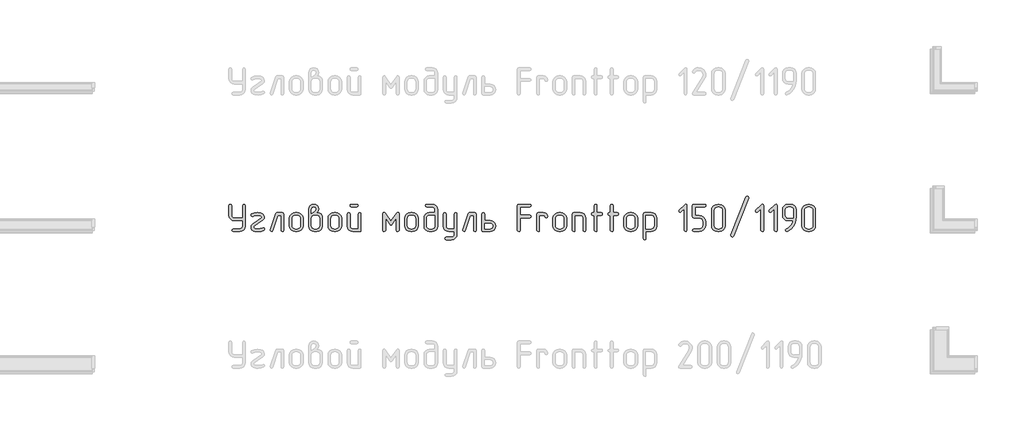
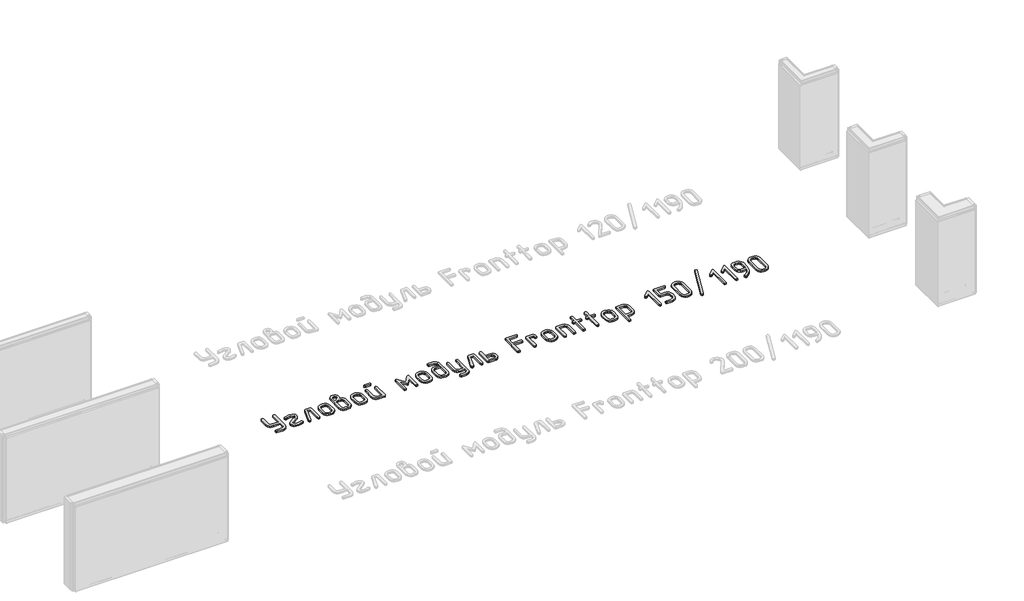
# One storey, part 28 of 37: 1 proxy.
"""IFC4 building model written with IfcOpenShell, lengths in millimetres."""

from ifc_helpers import new_model, si_unit, origin, origin_with_axes, place, context, project, spatial, polyline, outline, extrude, element, save

model = new_model("IFC4")

# Units and contexts
model_context = context("Model", 3, world=origin())
ifc_project = project(units=[si_unit("LENGTHUNIT", "METRE", prefix="MILLI")], contexts=[model_context])

# Site, building, storey
site = spatial("IfcSite", under=ifc_project)
building = spatial("IfcBuilding", under=site)
storey = spatial("IfcBuildingStorey", under=building, Name="Этаж 01", Elevation=0.0)

# Proxy
placement = place(None, origin())
element("IfcBuildingElementProxy", 1, Name="300 мм ГОСТ 2.304", ObjectType="300 мм ГОСТ 2.304", at=placement, inside=storey, context=model_context, shape_type="SweptSolid", body=[
    extrude(outline(polyline([(64282.5947081, -28108.7261154), (64192.9398643, -28108.7261154), (64169.869135, -28104.3522505), (64150.5152523, -28091.2306559), (64137.3936577, -28071.8767732), (64133.0197928, -28048.8060439), (64133.0197928, -27944.2838139), (64137.4124296, -27933.1332743), (64148.3377058, -27928.9659009), (64158.6247356, -27932.9080109), (64163.205092, -27944.2838139), (64163.205092, -28048.8060439), (64165.3357086, -28060.4540402), (64171.7275583, -28070.0183499), (64181.2918679, -28076.4101996), (64192.9398643, -28078.5408162), (64282.5947081, -28078.5408162), (64282.5947081, -27944.2838139), (64286.949801, -27933.1332743), (64297.4620942, -27928.9659009), (64307.9368436, -27932.9080109), (64312.3294804, -27944.2838139), (64312.3294804, -28168.19566), (64307.9556155, -28191.6042844), (64294.8340209, -28211.0707988), (64275.8180333, -28223.8544983), (64252.8599358, -28228.1157314), (64178.0724781, -28228.1157314), (64167.147202, -28223.7606385), (64163.205092, -28213.2483453), (64166.9219385, -28202.736052), (64178.0724781, -28198.3809591), (64252.8599358, -28198.3809591), (64264.2263528, -28196.1940267), (64273.8469783, -28189.6332294), (64280.4077756, -28179.8999722), (64282.5947081, -28168.19566), (64282.5947081, -28108.7261154)])), origin_with_axes(), (0.0, 0.0, 1.0), 20.0),
    extrude(outline(polyline([(64514.9914765, -28214.524838), (64485.4444237, -28225.0746752), (64451.6173658, -28228.5662583), (64430.8180428, -28227.4774851), (64413.0973199, -28224.5866044), (64396.8408093, -28219.4524755), (64384.8643037, -28209.3062353), (64377.4869265, -28195.6496401), (64375.0278008, -28179.984446), (64378.9699108, -28160.7619669), (64391.2467675, -28144.618088), (64486.5331969, -28078.991343), (64491.4139045, -28069.8306304), (64487.5844263, -28060.4071103), (64476.0959915, -28054.0621905), (64442.3815653, -28049.7070976), (64416.2510079, -28052.4290307), (64397.32888, -28060.5948299), (64388.1681673, -28064.1239569), (64377.693418, -28059.5436005), (64373.3007812, -28048.355517), (64379.4579815, -28037.0172579), (64408.0664367, -28024.777945), (64445.0096386, -28020.4228521), (64450.2657853, -28020.4228521), (64479.1370478, -28023.9144352), (64501.85111, -28033.7509382), (64516.7184961, -28049.0313073), (64521.9746427, -28068.9295767), (64517.7134096, -28086.6315276), (64504.9297101, -28102.193476), (64409.5681929, -28168.19566), (64404.3871341, -28179.6090069), (64408.1039806, -28189.8584928), (64417.9029396, -28195.7528858), (64434.3096259, -28197.5174493), (64451.9928049, -28198.3809591), (64478.4612575, -28196.2034127), (64501.0251441, -28187.8686659), (64508.4588371, -28186.1416463), (64519.1588499, -28190.7220026), (64523.3262233, -28201.9100861), (64521.2425366, -28209.1936036), (64514.9914765, -28214.524838)])), origin_with_axes(), (0.0, 0.0, 1.0), 20.0),
    extrude(outline(polyline([(64734.3229662, -28213.2483453), (64730.1555928, -28224.3988849), (64719.45558, -28228.1157314), (64708.9432868, -28224.1736215), (64704.5881939, -28213.2483453), (64704.5881939, -28048.8060439), (64670.0478018, -28048.8060439), (64614.0322964, -28218.0539651), (64608.5884303, -28225.4876581), (64600.5164908, -28228.1157314), (64589.7789341, -28224.1736215), (64585.1985778, -28213.6988721), (64586.0996315, -28208.4427255), (64645.1186493, -28029.133038), (64650.4498837, -28021.5867132), (64659.5355086, -28019.0712716), (64719.45558, -28019.0712716), (64730.6061197, -28022.7881181), (64734.3229662, -28033.9386577), (64734.3229662, -28213.2483453)])), origin_with_axes(), (0.0, 0.0, 1.0), 20.0),
    extrude(outline(polyline([(64945.7702359, -28162.4889865), (64940.9646162, -28187.9812976), (64926.5477569, -28209.3437792), (64905.5231704, -28223.4227434), (64880.143491, -28228.1157314), (64862.1975047, -28228.1157314), (64836.7615094, -28223.4227434), (64815.4177998, -28209.3437792), (64801.0009405, -28187.9812976), (64796.1953207, -28162.4889865), (64796.1953207, -28084.6980165), (64801.0009405, -28059.5436005), (64815.4177998, -28038.2937506), (64837.1744924, -28023.8768913), (64862.1975047, -28019.0712716), (64880.143491, -28019.0712716), (64905.288521, -28023.8862773), (64926.510213, -28038.3312945), (64940.9552302, -28059.5529865), (64945.7702359, -28084.6980165), (64945.7702359, -28162.4889865)]), holes=[polyline([(64916.0354636, -28162.4889865), (64916.0354636, -28084.6980165), (64913.4073903, -28070.9194036), (64905.5231704, -28059.3183371), (64893.9221039, -28051.4341172), (64880.143491, -28048.8060439), (64862.1975047, -28048.8060439), (64848.4282777, -28051.4341172), (64836.8553692, -28059.3183371), (64828.9993072, -28070.9194036), (64826.3806199, -28084.6980165), (64826.3806199, -28162.4889865), (64828.9993072, -28176.2675994), (64836.8553692, -28187.8686659), (64848.4282777, -28195.7528858), (64862.1975047, -28198.3809591), (64880.143491, -28198.3809591), (64893.9221039, -28195.7528858), (64905.5231704, -28187.8686659), (64913.4073903, -28176.2675994), (64916.0354636, -28162.4889865)])]), origin_with_axes(), (0.0, 0.0, 1.0), 20.0),
    extrude(outline(polyline([(65097.2974342, -28019.9723253), (65122.7897453, -28024.2335584), (65142.3501195, -28037.0172579), (65153.5006592, -28055.057104), (65157.2175057, -28078.5408162), (65157.2175057, -28168.19566), (65152.8436408, -28191.6042844), (65139.7220462, -28211.0707988), (65120.5934269, -28223.8544983), (65097.2974342, -28228.1157314), (65067.5626619, -28228.1157314), (65044.4919326, -28223.8544983), (65025.1380499, -28211.0707988), (65012.0164553, -28191.6042844), (65007.6425905, -28168.19566), (65007.6425905, -27983.2543867), (65011.9038236, -27960.3901489), (65024.6875231, -27942.5567943), (65041.4133325, -27932.3636243), (65061.8559884, -27928.9659009), (65081.9607493, -27932.3636243), (65098.573927, -27942.5567943), (65111.0760472, -27960.2775172), (65115.2434206, -27982.8038599), (65111.0760472, -28004.8421318), (65097.2974342, -28019.9723253)]), holes=[polyline([(65127.4827334, -28168.19566), (65127.4827334, -28078.5408162), (65125.295801, -28067.1743991), (65118.7350037, -28057.5537736), (65109.0017464, -28050.9929763), (65097.2974342, -28048.8060439), (65067.5626619, -28048.8060439), (65055.9146656, -28050.9929763), (65046.3503559, -28057.5537736), (65039.9585062, -28067.1743991), (65037.8278896, -28078.5408162), (65037.8278896, -28168.19566), (65039.9585062, -28179.8999722), (65046.3503559, -28189.6332294), (65055.9146656, -28196.1940267), (65067.5626619, -28198.3809591), (65097.2974342, -28198.3809591), (65109.0017464, -28196.1940267), (65118.7350037, -28189.6332294), (65125.295801, -28179.8999722), (65127.4827334, -28168.19566)]), polyline([(65037.8278896, -28029.133038), (65044.8110558, -28025.0032085), (65050.0672025, -28021.248818), (65060.1289688, -28014.0403884), (65067.5626619, -28008.5589783), (65079.8019748, -27997.671246), (65085.5086482, -27983.2543867), (65083.7065408, -27973.1644624), (65078.3002186, -27965.7213834), (65070.4723145, -27961.1316411), (65061.4054616, -27959.601727), (65052.4512404, -27961.1316411), (65044.8110558, -27965.7213834), (65039.5736812, -27973.1644624), (65037.8278896, -27983.2543867), (65037.8278896, -28029.133038)])]), origin_with_axes(), (0.0, 0.0, 1.0), 20.0),
    extrude(outline(polyline([(65368.6647755, -28162.4889865), (65363.8591557, -28187.9812976), (65349.4422964, -28209.3437792), (65328.4177099, -28223.4227434), (65303.0380305, -28228.1157314), (65285.0920442, -28228.1157314), (65259.6560489, -28223.4227434), (65238.3123393, -28209.3437792), (65223.89548, -28187.9812976), (65219.0898602, -28162.4889865), (65219.0898602, -28084.6980165), (65223.89548, -28059.5436005), (65238.3123393, -28038.2937506), (65260.0690319, -28023.8768913), (65285.0920442, -28019.0712716), (65303.0380305, -28019.0712716), (65328.1830605, -28023.8862773), (65349.4047525, -28038.3312945), (65363.8497697, -28059.5529865), (65368.6647755, -28084.6980165), (65368.6647755, -28162.4889865)]), holes=[polyline([(65338.9300032, -28162.4889865), (65338.9300032, -28084.6980165), (65336.3019298, -28070.9194036), (65328.4177099, -28059.3183371), (65316.8166434, -28051.4341172), (65303.0380305, -28048.8060439), (65285.0920442, -28048.8060439), (65271.3228172, -28051.4341172), (65259.7499087, -28059.3183371), (65251.8938467, -28070.9194036), (65249.2751594, -28084.6980165), (65249.2751594, -28162.4889865), (65251.8938467, -28176.2675994), (65259.7499087, -28187.8686659), (65271.3228172, -28195.7528858), (65285.0920442, -28198.3809591), (65303.0380305, -28198.3809591), (65316.8166434, -28195.7528858), (65328.4177099, -28187.8686659), (65336.3019298, -28176.2675994), (65338.9300032, -28162.4889865)])]), origin_with_axes(), (0.0, 0.0, 1.0), 20.0),
    extrude(outline(polyline([(65535.5098868, -27959.1512001), (65475.5898153, -27959.1512001), (65464.6645391, -27954.7961072), (65460.7224291, -27944.2838139), (65464.4392757, -27933.5838012), (65475.5898153, -27928.9659009), (65535.5098868, -27928.9659009), (65546.6604264, -27933.3585378), (65550.3772729, -27944.2838139), (65546.4351629, -27954.5708438), (65535.5098868, -27959.1512001)])), origin_with_axes(), (0.0, 0.0, 1.0), 20.0),
    extrude(outline(polyline([(65580.1120452, -28213.2483453), (65576.3951987, -28224.3988849), (65565.2446591, -28228.1157314), (65490.4572014, -28228.1157314), (65467.3864722, -28223.8544983), (65448.0325894, -28211.0707988), (65434.9109948, -28191.6042844), (65430.53713, -28168.19566), (65430.53713, -28033.9386577), (65434.9297668, -28023.0133815), (65445.855043, -28019.0712716), (65456.1420728, -28022.7881181), (65460.7224291, -28033.9386577), (65460.7224291, -28168.19566), (65462.8530457, -28179.8999722), (65469.2448954, -28189.6332294), (65478.8092051, -28196.1940267), (65490.4572014, -28198.3809591), (65550.3772729, -28198.3809591), (65550.3772729, -28033.9386577), (65554.7323658, -28023.0133815), (65565.2446591, -28019.0712716), (65575.7194084, -28022.7881181), (65580.1120452, -28033.9386577), (65580.1120452, -28213.2483453)])), origin_with_axes(), (0.0, 0.0, 1.0), 20.0),
    extrude(outline(polyline([(65999.1020187, -28213.2483453), (65994.7093818, -28224.1736215), (65984.2346325, -28228.1157314), (65973.4970758, -28224.3988849), (65969.3672464, -28213.2483453), (65969.3672464, -28080.2678358), (65921.6864877, -28147.2461613), (65915.5480594, -28153.1030104), (65909.4471749, -28155.0552934), (65903.121027, -28153.1030104), (65897.207862, -28147.2461613), (65849.9776303, -28080.2678358), (65849.9776303, -28213.2483453), (65845.3972739, -28224.1736215), (65835.1102441, -28228.1157314), (65823.9597045, -28224.3988849), (65819.7923311, -28213.2483453), (65819.7923311, -28033.9386577), (65823.5091776, -28021.0235546), (65832.9326977, -28016.4431983), (65840.666742, -28018.6395167), (65847.349557, -28025.2284719), (65909.4471749, -28112.6306814), (65971.9953197, -28025.2284719), (65978.7532225, -28018.6395167), (65985.9616521, -28016.4431983), (65995.3851721, -28021.0235546), (65999.1020187, -28033.9386577), (65999.1020187, -28213.2483453)])), origin_with_axes(), (0.0, 0.0, 1.0), 20.0),
    extrude(outline(polyline([(66209.6482347, -28162.4889865), (66204.8426149, -28187.9812976), (66190.4257556, -28209.3437792), (66169.4011692, -28223.4227434), (66144.0214898, -28228.1157314), (66126.0755035, -28228.1157314), (66100.6395082, -28223.4227434), (66079.2957985, -28209.3437792), (66064.8789392, -28187.9812976), (66060.0733195, -28162.4889865), (66060.0733195, -28084.6980165), (66064.8789392, -28059.5436005), (66079.2957985, -28038.2937506), (66101.0524911, -28023.8768913), (66126.0755035, -28019.0712716), (66144.0214898, -28019.0712716), (66169.1665198, -28023.8862773), (66190.3882117, -28038.3312945), (66204.833229, -28059.5529865), (66209.6482347, -28084.6980165), (66209.6482347, -28162.4889865)]), holes=[polyline([(66179.9134624, -28162.4889865), (66179.9134624, -28084.6980165), (66177.2853891, -28070.9194036), (66169.4011692, -28059.3183371), (66157.8001027, -28051.4341172), (66144.0214898, -28048.8060439), (66126.0755035, -28048.8060439), (66112.3062765, -28051.4341172), (66100.733368, -28059.3183371), (66092.877306, -28070.9194036), (66090.2586186, -28084.6980165), (66090.2586186, -28162.4889865), (66092.877306, -28176.2675994), (66100.733368, -28187.8686659), (66112.3062765, -28195.7528858), (66126.0755035, -28198.3809591), (66144.0214898, -28198.3809591), (66157.8001027, -28195.7528858), (66169.4011692, -28187.8686659), (66177.2853891, -28176.2675994), (66179.9134624, -28162.4889865)])]), origin_with_axes(), (0.0, 0.0, 1.0), 20.0),
    extrude(outline(polyline([(66391.3607322, -28019.0712716), (66391.3607322, -27988.8859724), (66389.1737997, -27977.2379761), (66382.6130024, -27967.6736664), (66372.8797452, -27961.2818167), (66361.175433, -27959.1512001), (66301.7058884, -27959.1512001), (66290.7806122, -27954.7961072), (66286.8385022, -27944.2838139), (66290.5553488, -27933.5838012), (66301.7058884, -27928.9659009), (66361.175433, -27928.9659009), (66384.4714257, -27933.3397658), (66403.600045, -27946.4613604), (66416.7216396, -27965.8152431), (66421.0955045, -27988.8859724), (66421.0955045, -28168.19566), (66416.7216396, -28191.6042844), (66403.600045, -28211.0707988), (66384.4714257, -28223.8544983), (66361.175433, -28228.1157314), (66331.4406607, -28228.1157314), (66308.3699314, -28223.8544983), (66289.0160487, -28211.0707988), (66275.8944541, -28191.6042844), (66271.5205892, -28168.19566), (66271.5205892, -28078.5408162), (66275.8944541, -28055.8079821), (66289.0160487, -28036.566731), (66308.3699314, -28023.4451364), (66331.4406607, -28019.0712716), (66391.3607322, -28019.0712716)]), holes=[polyline([(66391.3607322, -28048.8060439), (66331.4406607, -28048.8060439), (66319.7926643, -28050.9929763), (66310.2283547, -28057.5537736), (66303.836505, -28067.1743991), (66301.7058884, -28078.5408162), (66301.7058884, -28168.19566), (66303.836505, -28179.8999722), (66310.2283547, -28189.6332294), (66319.7926643, -28196.1940267), (66331.4406607, -28198.3809591), (66361.175433, -28198.3809591), (66372.8797452, -28196.1940267), (66382.6130024, -28189.6332294), (66389.1737997, -28179.8999722), (66391.3607322, -28168.19566), (66391.3607322, -28048.8060439)])]), origin_with_axes(), (0.0, 0.0, 1.0), 20.0),
    extrude(outline(polyline([(66602.8080019, -28228.1157314), (66542.8879304, -28228.1157314), (66519.8172012, -28223.8544983), (66500.4633184, -28211.0707988), (66487.3417238, -28191.6042844), (66482.967859, -28168.19566), (66482.967859, -28033.9386577), (66487.3604958, -28023.0133815), (66498.285772, -28019.0712716), (66508.5728018, -28022.7881181), (66513.1531581, -28033.9386577), (66513.1531581, -28168.19566), (66515.2837747, -28179.8999722), (66521.6756244, -28189.6332294), (66531.2399341, -28196.1940267), (66542.8879304, -28198.3809591), (66602.8080019, -28198.3809591), (66602.8080019, -28033.9386577), (66607.1630948, -28023.0133815), (66617.6753881, -28019.0712716), (66628.1501374, -28022.7881181), (66632.5427742, -28033.9386577), (66632.5427742, -28257.8505038), (66628.2815411, -28281.1464965), (66615.4978416, -28300.2751158), (66596.0313272, -28313.3967104), (66572.6227028, -28317.7705752), (66513.1531581, -28317.7705752), (66502.2278819, -28313.3779384), (66498.285772, -28302.9031891), (66502.0026185, -28292.3908958), (66513.1531581, -28288.0358029), (66572.6227028, -28288.0358029), (66584.327015, -28285.8488705), (66594.0602722, -28279.2880732), (66600.6210695, -28269.554816), (66602.8080019, -28257.8505038), (66602.8080019, -28228.1157314)])), origin_with_axes(), (0.0, 0.0, 1.0), 20.0),
    extrude(outline(polyline([(66843.990044, -28213.2483453), (66839.8226706, -28224.3988849), (66829.1226578, -28228.1157314), (66818.6103646, -28224.1736215), (66814.2552717, -28213.2483453), (66814.2552717, -28048.8060439), (66779.7148796, -28048.8060439), (66723.6993742, -28218.0539651), (66718.255508, -28225.4876581), (66710.1835686, -28228.1157314), (66699.4460119, -28224.1736215), (66694.8656556, -28213.6988721), (66695.7667093, -28208.4427255), (66754.7857271, -28029.133038), (66760.1169615, -28021.5867132), (66769.2025864, -28019.0712716), (66829.1226578, -28019.0712716), (66840.2731974, -28022.7881181), (66843.990044, -28033.9386577), (66843.990044, -28213.2483453)])), origin_with_axes(), (0.0, 0.0, 1.0), 20.0),
    extrude(outline(polyline([(66936.0476976, -28108.7261154), (66995.5172423, -28108.7261154), (67021.0095534, -28113.3252436), (67040.5699276, -28127.1226285), (67051.7204672, -28145.4628258), (67055.4373137, -28168.19566), (67051.8330989, -28190.9472661), (67041.0204544, -28209.3437792), (67021.1221851, -28223.4227434), (66995.5172423, -28228.1157314), (66921.1803115, -28228.1157314), (66909.6918767, -28224.3988849), (66905.8623985, -28213.2483453), (66905.8623985, -28033.9386577), (66910.2550353, -28023.0133815), (66921.1803115, -28019.0712716), (66931.4673413, -28022.7881181), (66936.0476976, -28033.9386577), (66936.0476976, -28108.7261154)]), holes=[polyline([(66936.0476976, -28138.4608877), (66936.0476976, -28198.3809591), (66995.5172423, -28198.3809591), (67008.3009417, -28196.1377108), (67017.8183215, -28189.407966), (67023.7314864, -28179.6183929), (67025.7025414, -28168.19566), (67023.8441182, -28157.1577521), (67018.2688483, -28147.6216003), (67008.6388369, -28140.7510658), (66995.5172423, -28138.4608877), (66936.0476976, -28138.4608877)])]), origin_with_axes(), (0.0, 0.0, 1.0), 20.0),
    extrude(outline(polyline([(67325.3028988, -28048.355517), (67429.8251287, -28048.355517), (67440.9756683, -28052.5228904), (67444.6925149, -28063.2229032), (67440.7504049, -28073.9604598), (67429.8251287, -28078.5408162), (67325.3028988, -28078.5408162), (67325.3028988, -28213.2483453), (67321.1355254, -28224.3988849), (67310.4355126, -28228.1157314), (67299.697956, -28224.1736215), (67295.1175996, -28213.2483453), (67295.1175996, -27944.2838139), (67298.9470779, -27932.7953792), (67310.4355126, -27928.9659009), (67429.8251287, -27928.9659009), (67440.9756683, -27933.3585378), (67444.6925149, -27944.2838139), (67440.7504049, -27954.5708438), (67429.8251287, -27959.1512001), (67325.3028988, -27959.1512001), (67325.3028988, -28048.355517)])), origin_with_axes(), (0.0, 0.0, 1.0), 20.0),
    extrude(outline(polyline([(67626.4050123, -28063.67343), (67622.2376389, -28074.8239697), (67611.5376262, -28078.5408162), (67600.8000695, -28074.5987062), (67596.2197132, -28063.67343), (67592.0523398, -28053.1986807), (67581.352327, -28048.8060439), (67536.7501685, -28048.8060439), (67536.7501685, -28213.2483453), (67532.5827951, -28224.3988849), (67521.8827824, -28228.1157314), (67511.1452257, -28224.1736215), (67506.5648694, -28213.2483453), (67506.5648694, -28033.9386577), (67510.3943476, -28022.7881181), (67521.8827824, -28019.0712716), (67581.352327, -28019.0712716), (67598.8477865, -28022.5628547), (67613.3021897, -28032.1740942), (67622.9134292, -28046.403234), (67626.4050123, -28063.67343)])), origin_with_axes(), (0.0, 0.0, 1.0), 20.0),
    extrude(outline(polyline([(67833.947716, -28162.4889865), (67829.1420963, -28187.9812976), (67814.7252369, -28209.3437792), (67793.7006505, -28223.4227434), (67768.3209711, -28228.1157314), (67750.3749848, -28228.1157314), (67724.9389895, -28223.4227434), (67703.5952798, -28209.3437792), (67689.1784205, -28187.9812976), (67684.3728008, -28162.4889865), (67684.3728008, -28084.6980165), (67689.1784205, -28059.5436005), (67703.5952798, -28038.2937506), (67725.3519725, -28023.8768913), (67750.3749848, -28019.0712716), (67768.3209711, -28019.0712716), (67793.4660011, -28023.8862773), (67814.687693, -28038.3312945), (67829.1327103, -28059.5529865), (67833.947716, -28084.6980165), (67833.947716, -28162.4889865)]), holes=[polyline([(67804.2129437, -28162.4889865), (67804.2129437, -28084.6980165), (67801.5848704, -28070.9194036), (67793.7006505, -28059.3183371), (67782.099584, -28051.4341172), (67768.3209711, -28048.8060439), (67750.3749848, -28048.8060439), (67736.6057578, -28051.4341172), (67725.0328493, -28059.3183371), (67717.1767873, -28070.9194036), (67714.5580999, -28084.6980165), (67714.5580999, -28162.4889865), (67717.1767873, -28176.2675994), (67725.0328493, -28187.8686659), (67736.6057578, -28195.7528858), (67750.3749848, -28198.3809591), (67768.3209711, -28198.3809591), (67782.099584, -28195.7528858), (67793.7006505, -28187.8686659), (67801.5848704, -28176.2675994), (67804.2129437, -28162.4889865)])]), origin_with_axes(), (0.0, 0.0, 1.0), 20.0),
    extrude(outline(polyline([(68045.3949858, -28213.2483453), (68041.2276124, -28224.3988849), (68030.5275996, -28228.1157314), (68020.0153064, -28224.1736215), (68015.6602135, -28213.2483453), (68015.6602135, -28078.5408162), (68013.473281, -28067.1743991), (68006.9124837, -28057.5537736), (67997.1792265, -28050.9929763), (67985.4749143, -28048.8060439), (67926.0053697, -28048.8060439), (67926.0053697, -28213.2483453), (67921.8379963, -28224.3988849), (67911.1379835, -28228.1157314), (67900.4004269, -28224.1736215), (67895.8200705, -28213.2483453), (67895.8200705, -28033.9386577), (67899.6495488, -28022.7881181), (67911.1379835, -28019.0712716), (67985.4749143, -28019.0712716), (68008.770907, -28023.3325047), (68027.8995263, -28036.1162042), (68041.0211209, -28055.4700869), (68045.3949858, -28078.5408162), (68045.3949858, -28213.2483453)])), origin_with_axes(), (0.0, 0.0, 1.0), 20.0),
    extrude(outline(polyline([(68167.1874117, -28019.0712716), (68212.2400971, -28019.0712716), (68223.3906367, -28023.238645), (68227.1074832, -28033.9386577), (68223.1653733, -28044.2256875), (68212.2400971, -28048.8060439), (68167.1874117, -28048.8060439), (68167.1874117, -28213.2483453), (68163.0200384, -28224.3988849), (68152.3200256, -28228.1157314), (68141.8077324, -28224.1736215), (68137.4526394, -28213.2483453), (68137.4526394, -28048.8060439), (68122.5852533, -28048.8060439), (68111.4347137, -28044.450951), (68107.2673403, -28033.9386577), (68111.2094502, -28023.4639084), (68122.5852533, -28019.0712716), (68137.4526394, -28019.0712716), (68137.4526394, -27944.2838139), (68141.8077324, -27933.1332743), (68152.3200256, -27928.9659009), (68162.7947749, -27932.9080109), (68167.1874117, -27944.2838139), (68167.1874117, -28019.0712716)])), origin_with_axes(), (0.0, 0.0, 1.0), 20.0),
    extrude(outline(polyline([(68344.9953431, -28019.0712716), (68390.0480284, -28019.0712716), (68401.1985681, -28023.238645), (68404.9154146, -28033.9386577), (68400.9733046, -28044.2256875), (68390.0480284, -28048.8060439), (68344.9953431, -28048.8060439), (68344.9953431, -28213.2483453), (68340.8279697, -28224.3988849), (68330.127957, -28228.1157314), (68319.6156637, -28224.1736215), (68315.2605708, -28213.2483453), (68315.2605708, -28048.8060439), (68300.3931847, -28048.8060439), (68289.2426451, -28044.450951), (68285.0752717, -28033.9386577), (68289.0173816, -28023.4639084), (68300.3931847, -28019.0712716), (68315.2605708, -28019.0712716), (68315.2605708, -27944.2838139), (68319.6156637, -27933.1332743), (68330.127957, -27928.9659009), (68340.6027063, -27932.9080109), (68344.9953431, -27944.2838139), (68344.9953431, -28019.0712716)])), origin_with_axes(), (0.0, 0.0, 1.0), 20.0),
    extrude(outline(polyline([(68612.4581183, -28162.4889865), (68607.6524985, -28187.9812976), (68593.2356392, -28209.3437792), (68572.2110527, -28223.4227434), (68546.8313734, -28228.1157314), (68528.885387, -28228.1157314), (68503.4493918, -28223.4227434), (68482.1056821, -28209.3437792), (68467.6888228, -28187.9812976), (68462.883203, -28162.4889865), (68462.883203, -28084.6980165), (68467.6888228, -28059.5436005), (68482.1056821, -28038.2937506), (68503.8623747, -28023.8768913), (68528.885387, -28019.0712716), (68546.8313734, -28019.0712716), (68571.9764033, -28023.8862773), (68593.1980953, -28038.3312945), (68607.6431126, -28059.5529865), (68612.4581183, -28084.6980165), (68612.4581183, -28162.4889865)]), holes=[polyline([(68582.723346, -28162.4889865), (68582.723346, -28084.6980165), (68580.0952727, -28070.9194036), (68572.2110527, -28059.3183371), (68560.6099863, -28051.4341172), (68546.8313734, -28048.8060439), (68528.885387, -28048.8060439), (68515.1161601, -28051.4341172), (68503.5432515, -28059.3183371), (68495.6871895, -28070.9194036), (68493.0685022, -28084.6980165), (68493.0685022, -28162.4889865), (68495.6871895, -28176.2675994), (68503.5432515, -28187.8686659), (68515.1161601, -28195.7528858), (68528.885387, -28198.3809591), (68546.8313734, -28198.3809591), (68560.6099863, -28195.7528858), (68572.2110527, -28187.8686659), (68580.0952727, -28176.2675994), (68582.723346, -28162.4889865)])]), origin_with_axes(), (0.0, 0.0, 1.0), 20.0),
    extrude(outline(polyline([(68704.515772, -28228.1157314), (68704.515772, -28302.9031891), (68700.3483986, -28314.0537287), (68689.6483858, -28317.7705752), (68678.9108291, -28313.8284653), (68674.3304728, -28302.9031891), (68674.3304728, -28033.9386577), (68678.1599511, -28022.7881181), (68689.6483858, -28019.0712716), (68763.9853166, -28019.0712716), (68787.2813093, -28023.3325047), (68806.4099286, -28036.1162042), (68819.5315232, -28055.4700869), (68823.9053881, -28078.5408162), (68823.9053881, -28168.19566), (68819.5315232, -28191.6042844), (68806.4099286, -28211.0707988), (68787.2813093, -28223.8544983), (68763.9853166, -28228.1157314), (68704.515772, -28228.1157314)]), holes=[polyline([(68704.515772, -28198.3809591), (68763.9853166, -28198.3809591), (68775.6896288, -28196.1940267), (68785.422886, -28189.6332294), (68791.9836833, -28179.8999722), (68794.1706157, -28168.19566), (68794.1706157, -28078.5408162), (68791.9836833, -28067.1743991), (68785.422886, -28057.5537736), (68775.6896288, -28050.9929763), (68763.9853166, -28048.8060439), (68704.515772, -28048.8060439), (68704.515772, -28198.3809591)])]), origin_with_axes(), (0.0, 0.0, 1.0), 20.0),
    extrude(outline(polyline([(69153.2405177, -28213.2483453), (69149.0731443, -28224.3988849), (69138.3731316, -28228.1157314), (69128.0861018, -28224.1736215), (69123.5057454, -28213.2483453), (69123.5057454, -27980.1757866), (69088.9653533, -28014.2656518), (69078.9035869, -28019.0712716), (69068.1660303, -28014.4909152), (69063.5856739, -28003.7533586), (69068.3912937, -27993.3161531), (69127.8608383, -27933.7715207), (69141.0012049, -27927.2388813), (69149.7489346, -27931.6315182), (69153.2405177, -27944.2838139), (69153.2405177, -28213.2483453)])), origin_with_axes(), (0.0, 0.0, 1.0), 20.0),
    extrude(outline(polyline([(69242.7451859, -27959.1512001), (69242.7451859, -28048.8060439), (69287.3473444, -28048.8060439), (69316.0778172, -28054.278068), (69340.2467057, -28070.6941402), (69356.6627779, -28094.8630286), (69362.134802, -28123.5935015), (69362.134802, -28153.3282738), (69356.6627779, -28182.1056766), (69340.2467057, -28206.2651791), (69316.0778172, -28222.6530933), (69287.3473444, -28228.1157314), (69227.8777997, -28228.1157314), (69216.7272601, -28223.7606385), (69212.5598867, -28213.2483453), (69216.5019967, -28202.736052), (69227.8777997, -28198.3809591), (69287.3473444, -28198.3809591), (69304.8428038, -28194.889376), (69319.297207, -28185.0528731), (69328.9084466, -28170.5984699), (69332.4000297, -28153.3282738), (69332.4000297, -28123.5935015), (69328.9084466, -28106.098042), (69319.297207, -28091.6436388), (69304.8428038, -28082.0323993), (69287.3473444, -28078.5408162), (69227.8777997, -28078.5408162), (69216.389365, -28074.8239697), (69212.5598867, -28063.67343), (69212.5598867, -27944.2838139), (69216.389365, -27932.7953792), (69227.8777997, -27928.9659009), (69347.2674158, -27928.9659009), (69358.4179554, -27933.3585378), (69362.134802, -27944.2838139), (69358.192692, -27954.5708438), (69347.2674158, -27959.1512001), (69242.7451859, -27959.1512001)])), origin_with_axes(), (0.0, 0.0, 1.0), 20.0),
    extrude(outline(polyline([(69573.5820717, -28162.4889865), (69568.776452, -28187.9812976), (69554.3595927, -28209.3437792), (69533.3350062, -28223.4227434), (69507.9553268, -28228.1157314), (69490.0093405, -28228.1157314), (69464.5733452, -28223.4227434), (69443.2296355, -28209.3437792), (69428.8127762, -28187.9812976), (69424.0071565, -28162.4889865), (69424.0071565, -27995.0431727), (69428.8127762, -27969.8887568), (69443.2296355, -27948.6389069), (69464.7610647, -27933.8841524), (69490.0093405, -27928.9659009), (69507.9553268, -27928.9659009), (69533.1003568, -27933.7809067), (69554.3220488, -27948.2259239), (69568.767066, -27969.5602476), (69573.5820717, -27995.0431727), (69573.5820717, -28162.4889865)]), holes=[polyline([(69543.8472994, -28162.4889865), (69543.8472994, -27995.0431727), (69541.2192261, -27981.2645598), (69533.3350062, -27969.6634933), (69521.7339397, -27961.7792734), (69507.9553268, -27959.1512001), (69490.0093405, -27959.1512001), (69476.2401135, -27961.7792734), (69464.667205, -27969.6634933), (69456.811143, -27981.2645598), (69454.1924556, -27995.0431727), (69454.1924556, -28162.4889865), (69456.811143, -28176.2675994), (69464.667205, -28187.8686659), (69476.2401135, -28195.7528858), (69490.0093405, -28198.3809591), (69507.9553268, -28198.3809591), (69521.7339397, -28195.7528858), (69533.3350062, -28187.8686659), (69541.2192261, -28176.2675994), (69543.8472994, -28162.4889865)])]), origin_with_axes(), (0.0, 0.0, 1.0), 20.0),
    extrude(outline(polyline([(69829.1809731, -27859.8851168), (69664.7386717, -28278.4245634), (69659.0695421, -28285.4077296), (69651.2228661, -28288.0358029), (69640.260046, -28283.8684295), (69635.4544262, -28273.1684168), (69636.3554799, -28267.4617433), (69800.7977813, -27848.9973845), (69806.4669109, -27841.9391305), (69814.3135869, -27839.3110572), (69825.276407, -27843.703694), (69830.0820268, -27854.1784433), (69829.1809731, -27859.8851168)])), origin_with_axes(), (0.0, 0.0, 1.0), 20.0),
    extrude(outline(polyline([(69994.223977, -28213.2483453), (69990.0566036, -28224.3988849), (69979.3565908, -28228.1157314), (69969.069561, -28224.1736215), (69964.4892047, -28213.2483453), (69964.4892047, -27980.1757866), (69929.9488126, -28014.2656518), (69919.8870462, -28019.0712716), (69909.1494895, -28014.4909152), (69904.5691332, -28003.7533586), (69909.374753, -27993.3161531), (69968.8442976, -27933.7715207), (69981.9846641, -27927.2388813), (69990.7323939, -27931.6315182), (69994.223977, -27944.2838139), (69994.223977, -28213.2483453)])), origin_with_axes(), (0.0, 0.0, 1.0), 20.0),
    extrude(outline(polyline([(70143.1981898, -28213.2483453), (70139.0308164, -28224.3988849), (70128.3308036, -28228.1157314), (70118.0437738, -28224.1736215), (70113.4634175, -28213.2483453), (70113.4634175, -27980.1757866), (70078.9230254, -28014.2656518), (70068.861259, -28019.0712716), (70058.1237023, -28014.4909152), (70053.543346, -28003.7533586), (70058.3489657, -27993.3161531), (70117.8185104, -27933.7715207), (70130.9588769, -27927.2388813), (70139.7066066, -27931.6315182), (70143.1981898, -27944.2838139), (70143.1981898, -28213.2483453)])), origin_with_axes(), (0.0, 0.0, 1.0), 20.0),
    extrude(outline(polyline([(70316.6510282, -28108.7261154), (70262.4376302, -28108.7261154), (70239.366901, -28104.3522505), (70220.0130182, -28091.2306559), (70206.8914236, -28071.8767732), (70202.5175588, -28048.8060439), (70202.5175588, -27988.8859724), (70206.8914236, -27965.8152431), (70220.0130182, -27946.4613604), (70239.366901, -27933.3397658), (70262.4376302, -27928.9659009), (70292.1724025, -27928.9659009), (70315.4683952, -27933.3397658), (70334.5970145, -27946.4613604), (70347.7186091, -27965.8152431), (70352.092474, -27988.8859724), (70352.092474, -28063.2229032), (70348.150364, -28105.347164), (70336.3240342, -28144.1675611), (70322.0667364, -28170.5796979), (70302.8724153, -28193.8006028), (70279.6421244, -28212.8729062), (70253.2769176, -28226.8392387), (70247.1197172, -28228.1157314), (70236.8702313, -28223.3101117), (70232.7028579, -28212.3472916), (70234.8804044, -28204.725879), (70241.8635706, -28199.2820128), (70263.1885083, -28188.0939293), (70281.6601093, -28173.0012797), (70296.8466186, -28154.3231873), (70308.3162814, -28132.3787751), (70312.7464622, -28120.7777087), (70316.6510282, -28108.7261154)]), holes=[polyline([(70321.456648, -28078.1278332), (70321.6819114, -28073.09695), (70322.1324383, -28061.5334275), (70322.3577017, -28036.1162042), (70322.3577017, -27988.8859724), (70320.1707693, -27977.2379761), (70313.609972, -27967.6736664), (70303.8767147, -27961.2818167), (70292.1724025, -27959.1512001), (70262.4376302, -27959.1512001), (70250.7896339, -27961.2818167), (70241.2253242, -27967.6736664), (70234.8334745, -27977.2379761), (70232.7028579, -27988.8859724), (70232.7028579, -28048.8060439), (70234.8334745, -28060.4540402), (70241.2253242, -28070.0183499), (70250.7896339, -28076.4101996), (70262.4376302, -28078.5408162), (70321.456648, -28078.1278332)])]), origin_with_axes(), (0.0, 0.0, 1.0), 20.0),
    extrude(outline(polyline([(70563.5397438, -28162.4889865), (70558.734124, -28187.9812976), (70544.3172647, -28209.3437792), (70523.2926782, -28223.4227434), (70497.9129988, -28228.1157314), (70479.9670125, -28228.1157314), (70454.5310173, -28223.4227434), (70433.1873076, -28209.3437792), (70418.7704483, -28187.9812976), (70413.9648285, -28162.4889865), (70413.9648285, -27995.0431727), (70418.7704483, -27969.8887568), (70433.1873076, -27948.6389069), (70454.7187368, -27933.8841524), (70479.9670125, -27928.9659009), (70497.9129988, -27928.9659009), (70523.0580288, -27933.7809067), (70544.2797208, -27948.2259239), (70558.724738, -27969.5602476), (70563.5397438, -27995.0431727), (70563.5397438, -28162.4889865)]), holes=[polyline([(70533.8049715, -28162.4889865), (70533.8049715, -27995.0431727), (70531.1768982, -27981.2645598), (70523.2926782, -27969.6634933), (70511.6916118, -27961.7792734), (70497.9129988, -27959.1512001), (70479.9670125, -27959.1512001), (70466.1977856, -27961.7792734), (70454.624877, -27969.6634933), (70446.768815, -27981.2645598), (70444.1501277, -27995.0431727), (70444.1501277, -28162.4889865), (70446.768815, -28176.2675994), (70454.624877, -28187.8686659), (70466.1977856, -28195.7528858), (70479.9670125, -28198.3809591), (70497.9129988, -28198.3809591), (70511.6916118, -28195.7528858), (70523.2926782, -28187.8686659), (70531.1768982, -28176.2675994), (70533.8049715, -28162.4889865)])]), origin_with_axes(), (0.0, 0.0, 1.0), 20.0),
])

save(model, "model.ifc")
